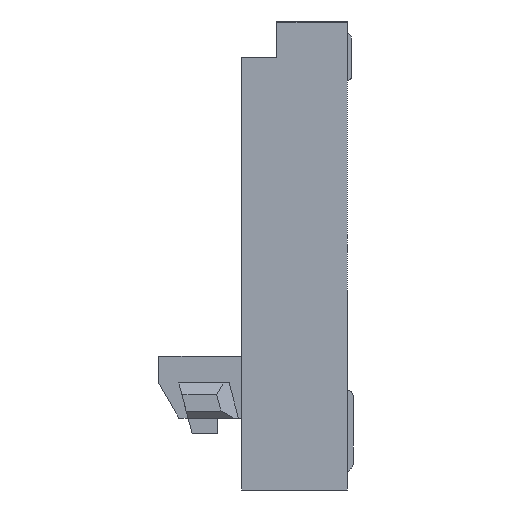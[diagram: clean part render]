
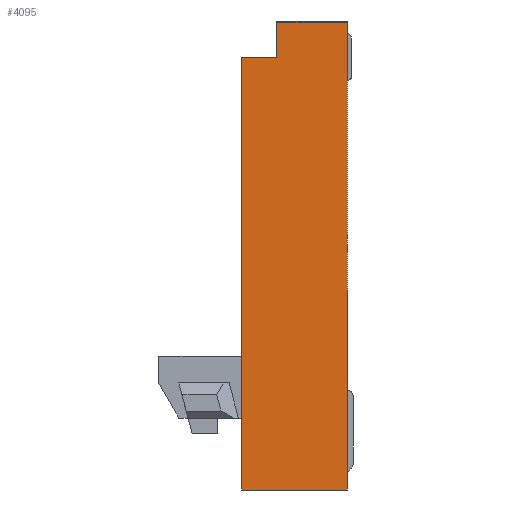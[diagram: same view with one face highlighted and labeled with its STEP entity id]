
A CAD part, left-side view. The second image highlights one B-rep face of the part: STEP entity #4095.
In plain terms, the highlighted planar face has unit normal (-1, 0, 0).
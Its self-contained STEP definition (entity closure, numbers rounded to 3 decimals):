
#34 = VECTOR ( 'NONE', #5456, 1000. ) ;
#145 = VECTOR ( 'NONE', #5302, 1000. ) ;
#167 = AXIS2_PLACEMENT_3D ( 'NONE', #5234, #5233, #5232 ) ;
#1091 = EDGE_CURVE ( 'NONE', #10479, #12488, #3562, .T. ) ;
#1124 = EDGE_CURVE ( 'NONE', #10479, #10491, #3592, .T. ) ;
#1143 = EDGE_CURVE ( 'NONE', #12455, #10075, #3609, .T. ) ;
#1151 = EDGE_CURVE ( 'NONE', #10491, #10075, #3616, .T. ) ;
#2201 = ORIENTED_EDGE ( 'NONE', *, *, #1091, .T. ) ;
#2618 = ORIENTED_EDGE ( 'NONE', *, *, #4033, .T. ) ;
#2706 = ORIENTED_EDGE ( 'NONE', *, *, #1143, .T. ) ;
#2737 = ORIENTED_EDGE ( 'NONE', *, *, #4082, .T. ) ;
#2756 = ORIENTED_EDGE ( 'NONE', *, *, #1151, .F. ) ;
#2786 = ORIENTED_EDGE ( 'NONE', *, *, #1124, .F. ) ;
#3562 = LINE ( 'NONE', #6336, #12770 ) ;
#3592 = LINE ( 'NONE', #6421, #12806 ) ;
#3609 = LINE ( 'NONE', #5776, #12827 ) ;
#3616 = LINE ( 'NONE', #5752, #12836 ) ;
#3697 = LINE ( 'NONE', #5457, #34 ) ;
#3736 = LINE ( 'NONE', #5303, #145 ) ;
#3750 = FACE_OUTER_BOUND ( 'NONE', #12006, .T. ) ;
#4033 = EDGE_CURVE ( 'NONE', #12454, #12455, #3697, .T. ) ;
#4082 = EDGE_CURVE ( 'NONE', #12488, #12454, #3736, .T. ) ;
#4095 = ADVANCED_FACE ( 'NONE', ( #3750 ), #5235, .T. ) ;
#5232 = DIRECTION ( 'NONE',  ( 0., 0., 1. ) ) ;
#5233 = DIRECTION ( 'NONE',  ( -1., 0., 0. ) ) ;
#5234 = CARTESIAN_POINT ( 'NONE',  ( -6.2, 0.9, 0. ) ) ;
#5235 = PLANE ( 'NONE',  #167 ) ;
#5302 = DIRECTION ( 'NONE',  ( 0., 0., -1. ) ) ;
#5303 = CARTESIAN_POINT ( 'NONE',  ( -6.2, 0.6, 0. ) ) ;
#5456 = DIRECTION ( 'NONE',  ( 0., 1., 0. ) ) ;
#5457 = CARTESIAN_POINT ( 'NONE',  ( -6.2, 1.5, -0.3 ) ) ;
#5750 = DIRECTION ( 'NONE',  ( 0., 1., 0. ) ) ;
#5752 = CARTESIAN_POINT ( 'NONE',  ( -6.2, 0., -4. ) ) ;
#5775 = DIRECTION ( 'NONE',  ( 0., 0., -1. ) ) ;
#5776 = CARTESIAN_POINT ( 'NONE',  ( -6.2, 0.9, 0. ) ) ;
#6336 = CARTESIAN_POINT ( 'NONE',  ( -6.2, 0.9, 0. ) ) ;
#6337 = DIRECTION ( 'NONE',  ( 0., 1., 0. ) ) ;
#6421 = CARTESIAN_POINT ( 'NONE',  ( -6.2, 0., 0. ) ) ;
#6422 = DIRECTION ( 'NONE',  ( 0., 0., -1. ) ) ;
#7873 = CARTESIAN_POINT ( 'NONE',  ( -6.2, 0.6, -0.3 ) ) ;
#7874 = CARTESIAN_POINT ( 'NONE',  ( -6.2, 0.9, -0.3 ) ) ;
#7907 = CARTESIAN_POINT ( 'NONE',  ( -6.2, 0.6, 0. ) ) ;
#10075 = VERTEX_POINT ( 'NONE', #10928 ) ;
#10479 = VERTEX_POINT ( 'NONE', #11145 ) ;
#10491 = VERTEX_POINT ( 'NONE', #10855 ) ;
#10855 = CARTESIAN_POINT ( 'NONE',  ( -6.2, 0., -4. ) ) ;
#10928 = CARTESIAN_POINT ( 'NONE',  ( -6.2, 0.9, -4. ) ) ;
#11145 = CARTESIAN_POINT ( 'NONE',  ( -6.2, 0., 0. ) ) ;
#12006 = EDGE_LOOP ( 'NONE', ( #2201, #2737, #2618, #2706, #2756, #2786 ) ) ;
#12454 = VERTEX_POINT ( 'NONE', #7873 ) ;
#12455 = VERTEX_POINT ( 'NONE', #7874 ) ;
#12488 = VERTEX_POINT ( 'NONE', #7907 ) ;
#12770 = VECTOR ( 'NONE', #6337, 1000. ) ;
#12806 = VECTOR ( 'NONE', #6422, 1000. ) ;
#12827 = VECTOR ( 'NONE', #5775, 1000. ) ;
#12836 = VECTOR ( 'NONE', #5750, 1000. ) ;
